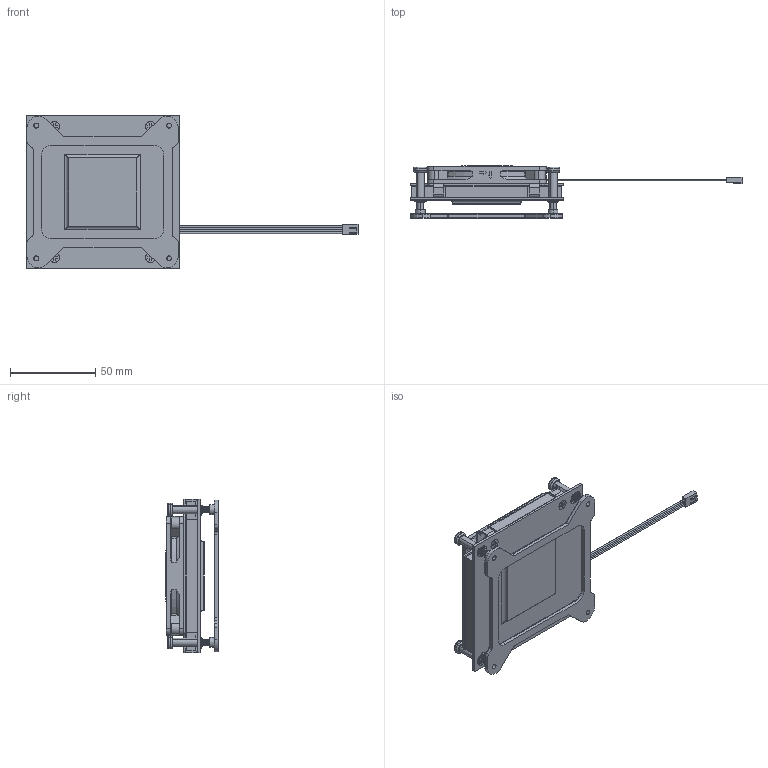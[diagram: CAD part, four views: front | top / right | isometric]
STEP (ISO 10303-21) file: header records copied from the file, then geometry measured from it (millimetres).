
FILE_DESCRIPTION((''),'2;1');
FILE_NAME('RGD3114_Z_-002_ME_ASM','2022-10-11T',('User'),(''),'PRO/ENGINEER BY PARAMETRIC TECHNOLOGY CORPORATION, 2017170','PRO/ENGINEER BY PARAMETRIC TECHNOLOGY CORPORATION, 2017170','');
FILE_SCHEMA(('CONFIG_CONTROL_DESIGN'));
Products named in the file (24): PRT0001_7_1_1_14; ASM0001_ASM_5_ASM_ASM_1_ASM_14_ASM; 1-0700030881-A_1_14; E-RING_1_14; SCREW_ASSY_ASM_1_ASM_15_ASM; 17-HARGD31X40881-A_ASM_1_ASM_2_ASM; FAN-COVER_RG3114_Z_1_6; M3_8L_1_14; T5_10L_SCREW_1_6; __2_1_6; __1_1_6; __3_1_6; 7009IMPELLER_3_1_ASM_1_ASM_6_ASM; R7010_2_1_1_6; R127010BUAF077AR_ASM_1_ASM_6_ASM; 4PIN_2543_CABLE__1_10; LABEL_R30_1_1_14; R127010BUAF077AR_7010FAN_ASSY_A_ASM; 850-BP-1700-5_1_1; ADHESIVE_1_14; MYLAR_1_14; 850-BP1700-5_ASM_1_ASM_1_ASM; RGD3114_Z-002_ME_ASM_1_ASM; RGD3114_Z_-002_ME_ASM
Assembly tree (32 placements, depth 6):
  RGD3114_Z_-002_ME_ASM
    RGD3114_Z-002_ME_ASM_1_ASM
      17-HARGD31X40881-A_ASM_1_ASM_2_ASM
        ASM0001_ASM_5_ASM_ASM_1_ASM_14_ASM
          PRT0001_7_1_1_14
        SCREW_ASSY_ASM_1_ASM_15_ASM  x4
          1-0700030881-A_1_14
          E-RING_1_14
      FAN-COVER_RG3114_Z_1_6
      M3_8L_1_14  x4
      T5_10L_SCREW_1_6  x4
      R127010BUAF077AR_7010FAN_ASSY_A_ASM
        R127010BUAF077AR_ASM_1_ASM_6_ASM
          7009IMPELLER_3_1_ASM_1_ASM_6_ASM
            __2_1_6
            __1_1_6
            __3_1_6
          R7010_2_1_1_6
        4PIN_2543_CABLE__1_10
        LABEL_R30_1_1_14
      850-BP1700-5_ASM_1_ASM_1_ASM
        850-BP-1700-5_1_1
        ADHESIVE_1_14
        MYLAR_1_14
Bounding box: 195 x 30.6 x 90 mm (x, y, z)
Volume: 105442.6 mm3; surface area: 70713.5 mm2
Topology: 27 solids, 27 shells, 2785 faces, 7910 edges, 5285 vertices
Faces by surface type: plane 1697, cylinder 796, extrusion 95, cone 81, bspline 72, torus 44
Entity records: 66568 total; most frequent: CARTESIAN_POINT 19086, ORIENTED_EDGE 10100, DIRECTION 9494, EDGE_CURVE 5050, VERTEX_POINT 3401, VECTOR 3270, LINE 3175, AXIS2_PLACEMENT_3D 3112
